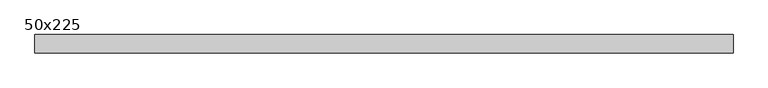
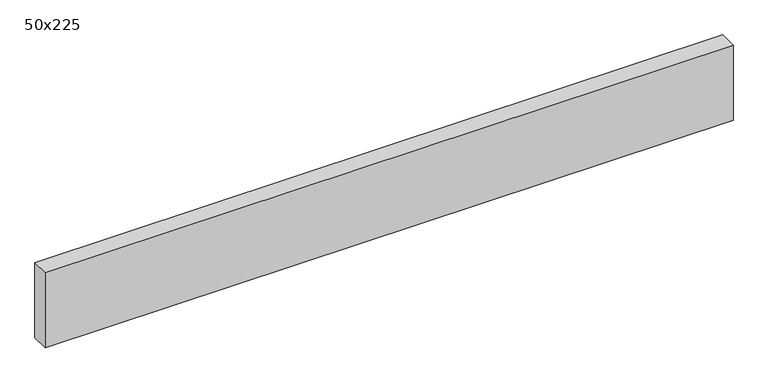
"""IFC4 building model written with IfcOpenShell, lengths in millimetres: beam geometry, Graded Timber : 50x225."""

from ifc_helpers import new_model, si_unit, frame, origin, place, context, project, spatial, polyline, outline, extrude, source, transform, mapped, element, save


def beam_50x225_c7a64823(model_context):
    return source(origin(), model_context, "Body", "SweptSolid", [
        extrude(outline(polyline([(955.5, 25.0), (955.5, -25.0), (-955.5, -25.0), (-955.5, 25.0), (955.5, 25.0)])), frame((0.0, 0.0, -110.0), z_axis=(0.0, 0.0, 1.0), x_axis=(1.0, 0.0, 0.0)), (0.0, 0.0, 1.0), 220.0),
    ])


if __name__ == "__main__":
    model = new_model("IFC4")
    model_context = context("Model", 3, world=origin())
    ifc_project = project(units=[si_unit("LENGTHUNIT", "METRE", prefix="MILLI")], contexts=[model_context])
    site = spatial("IfcSite", under=ifc_project)
    building = spatial("IfcBuilding", under=site)
    placement = place(None, origin())
    beam_50x225_shape = beam_50x225_c7a64823(model_context)
    element("IfcBeam", 1, ObjectType="Graded Timber : 50x225", at=placement, inside=building, context=model_context, shape_type="MappedRepresentation", body=[
        mapped(beam_50x225_shape, transform((0.0, 0.0, 0.0), x_axis=(1.0, 0.0, 0.0), y_axis=(0.0, 1.0, 0.0), z_axis=(0.0, 0.0, 1.0))),
    ])
    save(model, "model.ifc")
